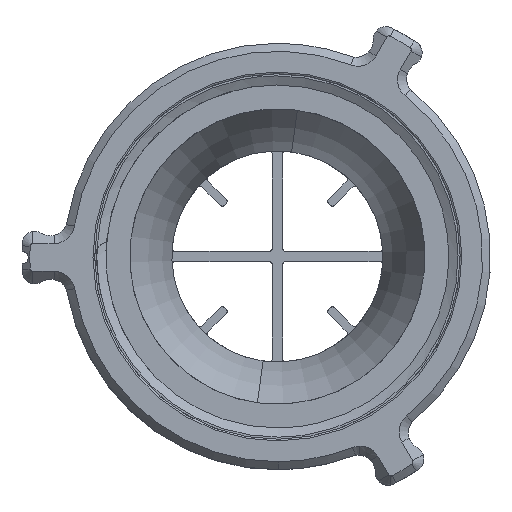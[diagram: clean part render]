
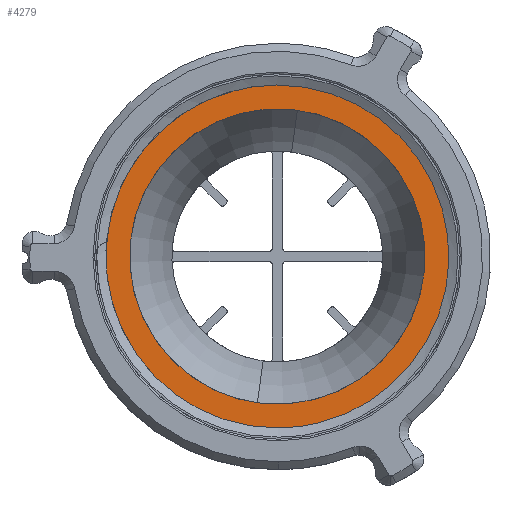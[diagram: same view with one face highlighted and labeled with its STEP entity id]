
A CAD part, left-side view. The second image highlights one B-rep face of the part: STEP entity #4279.
In plain terms, the highlighted planar face has unit normal (-1, 0, 0).
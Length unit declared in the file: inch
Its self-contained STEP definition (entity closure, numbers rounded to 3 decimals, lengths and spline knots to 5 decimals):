
#2420 = EDGE_LOOP ( 'NONE', ( #15172, #15151 ) ) ;
#2923 = FACE_OUTER_BOUND ( 'NONE', #2420, .T. ) ;
#2931 = FACE_BOUND ( 'NONE', #5623, .T. ) ;
#3400 = CIRCLE ( 'NONE', #12068, 1.75 ) ;
#3406 = CIRCLE ( 'NONE', #12070, 1.75 ) ;
#3408 = CIRCLE ( 'NONE', #12073, 2.1875 ) ;
#3411 = CIRCLE ( 'NONE', #12072, 2.1875 ) ;
#4279 = ADVANCED_FACE ( 'NONE', ( #2923, #2931 ), #8029, .F. ) ;
#5082 = CARTESIAN_POINT ( 'NONE',  ( -10.49601, -0.58848, 2.10686 ) ) ;
#5084 = CARTESIAN_POINT ( 'NONE',  ( -10.49601, 0.47079, -1.68549 ) ) ;
#5093 = CARTESIAN_POINT ( 'NONE',  ( -10.49601, 0.58848, -2.10686 ) ) ;
#5097 = CARTESIAN_POINT ( 'NONE',  ( -10.49601, -0.47079, 1.68549 ) ) ;
#5623 = EDGE_LOOP ( 'NONE', ( #15209, #15104 ) ) ;
#6434 = EDGE_CURVE ( 'NONE', #10793, #10807, #3400, .T. ) ;
#6437 = EDGE_CURVE ( 'NONE', #10807, #10793, #3406, .T. ) ;
#6439 = EDGE_CURVE ( 'NONE', #10792, #10798, #3411, .T. ) ;
#6440 = EDGE_CURVE ( 'NONE', #10798, #10792, #3408, .T. ) ;
#8026 = CARTESIAN_POINT ( 'NONE',  ( -10.49601, -1.68549, -0.47079 ) ) ;
#8029 = PLANE ( 'NONE',  #14800 ) ;
#8031 = DIRECTION ( 'NONE',  ( 1., 0., 0. ) ) ;
#8032 = DIRECTION ( 'NONE',  ( 0., -0.269, 0.963 ) ) ;
#8319 = CARTESIAN_POINT ( 'NONE',  ( -10.49601, 0., 0. ) ) ;
#8320 = DIRECTION ( 'NONE',  ( 1., 0., 0. ) ) ;
#8321 = DIRECTION ( 'NONE',  ( 0., -0.269, 0.963 ) ) ;
#8325 = CARTESIAN_POINT ( 'NONE',  ( -10.49601, 0., 0. ) ) ;
#8326 = DIRECTION ( 'NONE',  ( 1., 0., 0. ) ) ;
#8327 = DIRECTION ( 'NONE',  ( 0., -0.269, 0.963 ) ) ;
#8331 = CARTESIAN_POINT ( 'NONE',  ( -10.49601, 0., 0. ) ) ;
#8332 = DIRECTION ( 'NONE',  ( 1., 0., 0. ) ) ;
#8333 = DIRECTION ( 'NONE',  ( 0., -0.269, 0.963 ) ) ;
#8335 = CARTESIAN_POINT ( 'NONE',  ( -10.49601, 0., 0. ) ) ;
#8336 = DIRECTION ( 'NONE',  ( 1., 0., 0. ) ) ;
#8337 = DIRECTION ( 'NONE',  ( 0., -0.269, 0.963 ) ) ;
#10792 = VERTEX_POINT ( 'NONE', #5082 ) ;
#10793 = VERTEX_POINT ( 'NONE', #5084 ) ;
#10798 = VERTEX_POINT ( 'NONE', #5093 ) ;
#10807 = VERTEX_POINT ( 'NONE', #5097 ) ;
#12068 = AXIS2_PLACEMENT_3D ( 'NONE', #8319, #8320, #8321 ) ;
#12070 = AXIS2_PLACEMENT_3D ( 'NONE', #8325, #8326, #8327 ) ;
#12072 = AXIS2_PLACEMENT_3D ( 'NONE', #8331, #8332, #8333 ) ;
#12073 = AXIS2_PLACEMENT_3D ( 'NONE', #8335, #8336, #8337 ) ;
#14800 = AXIS2_PLACEMENT_3D ( 'NONE', #8026, #8031, #8032 ) ;
#15104 = ORIENTED_EDGE ( 'NONE', *, *, #6434, .T. ) ;
#15151 = ORIENTED_EDGE ( 'NONE', *, *, #6440, .F. ) ;
#15172 = ORIENTED_EDGE ( 'NONE', *, *, #6439, .F. ) ;
#15209 = ORIENTED_EDGE ( 'NONE', *, *, #6437, .T. ) ;
